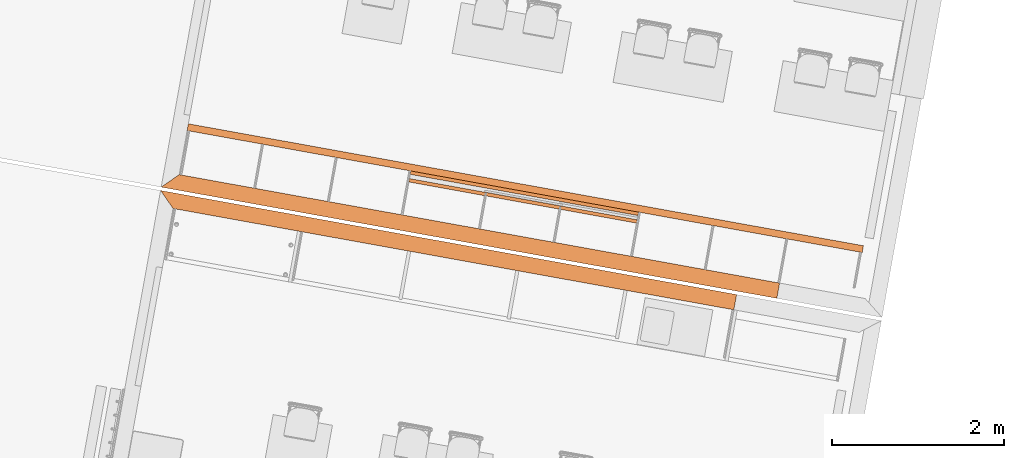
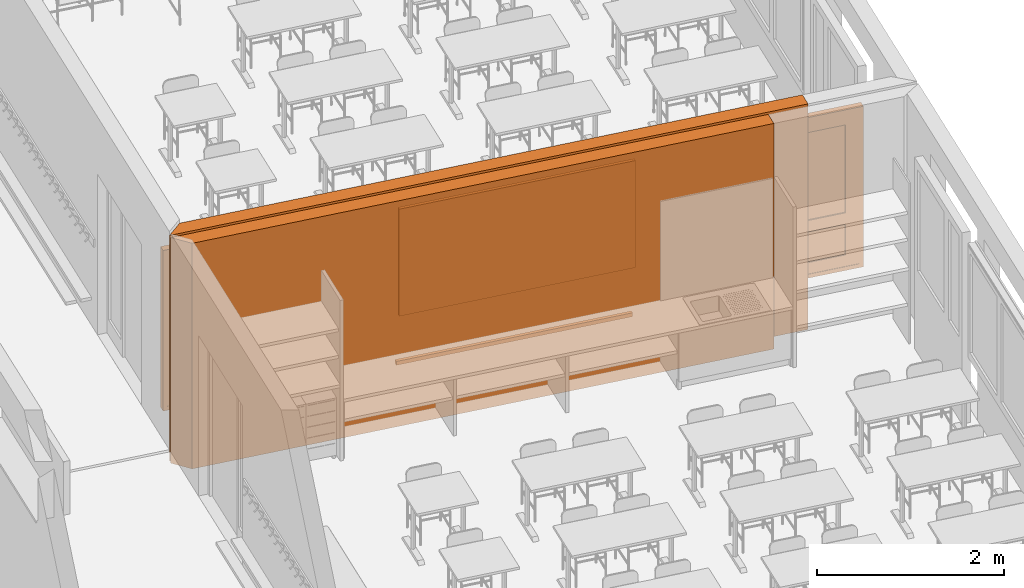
# One storey, part 41 of 79: 5 proxies.
"""IFC2X3 building model written with IfcOpenShell, lengths in metres."""

from ifc_helpers import new_model, entity, si_unit, converted_unit, derived_unit, money_unit, direction, frame, origin_with_axes, place, context, subcontext, project, spatial, polyline, outline, extrude, open_shell, faceted_brep, surface_model, source, transform, mapped, material, type_object, element, save


model = new_model("IFC2X3")

# Units and contexts
model_context = context("Model", 3, precision=1e-05, world=origin_with_axes(), true_north=direction((0.0, 1.0)))
body_context = subcontext(model_context, "Body", "Model", "MODEL_VIEW")
ifc_project = project(units=[si_unit("LENGTHUNIT", "METRE"), si_unit("AREAUNIT", "SQUARE_METRE"), si_unit("VOLUMEUNIT", "CUBIC_METRE"), converted_unit("PLANEANGLEUNIT", "DEGREE", entity("IfcPlaneAngleMeasure", 0.0174532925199), si_unit("PLANEANGLEUNIT", "RADIAN"), dimensions=[0, 0, 0, 0, 0, 0, 0]), money_unit("CHF"), converted_unit("TIMEUNIT", "Year", entity("IfcTimeMeasure", 31556926.0), si_unit("TIMEUNIT", "SECOND"), dimensions=[0, 0, 1, 0, 0, 0, 0]), si_unit("MASSUNIT", "GRAM", prefix="KILO"), si_unit("THERMODYNAMICTEMPERATUREUNIT", "DEGREE_CELSIUS"), si_unit("LUMINOUSINTENSITYUNIT", "LUMEN"), si_unit("ENERGYUNIT", "JOULE", prefix="MEGA"), derived_unit("THERMALCONDUCTANCEUNIT", [(si_unit("POWERUNIT", "WATT"), 1), (si_unit("LENGTHUNIT", "METRE"), -1), (si_unit("THERMODYNAMICTEMPERATUREUNIT", "KELVIN"), -1)]), derived_unit("SPECIFICHEATCAPACITYUNIT", [(si_unit("ENERGYUNIT", "JOULE"), 1), (si_unit("MASSUNIT", "GRAM", prefix="KILO"), -1), (si_unit("THERMODYNAMICTEMPERATUREUNIT", "KELVIN"), -1)]), derived_unit("MASSDENSITYUNIT", [(si_unit("MASSUNIT", "GRAM", prefix="KILO"), 1), (si_unit("VOLUMEUNIT", "CUBIC_METRE"), -1)])], contexts=[model_context])

# Site, building, storey
site_placement = place(None, frame((0.0, 0.0, 0.0), z_axis=(0.0, 0.0, 1.0), x_axis=(-0.177771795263, -0.984071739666, 0.0)))
site = spatial("IfcSite", under=ifc_project, at=site_placement, Name="Site", CompositionType="ELEMENT")
building_placement = place(site_placement, origin_with_axes())
building = spatial("IfcBuilding", under=site, at=building_placement, Name="Bâtiment", CompositionType="ELEMENT")
storey_placement = place(building_placement, origin_with_axes())
storey = spatial("IfcBuildingStorey", under=building, at=storey_placement, Name="RDC", CompositionType="ELEMENT", Elevation=0.0)

# Proxies
ifc_material_1 = material(Name="_BA banché RAL9007")
building_element_proxy_type_1 = type_object("IfcBuildingElementProxyType", Name="_BA banché RAL9007 180", PredefinedType="NOTDEFINED")
proxy_1_placement = place(storey_placement, frame((128.464841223, -156.627151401, -0.15), z_axis=(0.0, 0.0, 1.0), x_axis=(0.0, 1.0, 0.0)))
element("IfcBuildingElementProxy", 1, at=proxy_1_placement, inside=storey, type_object=building_element_proxy_type_1, material=ifc_material_1, Name="M refend", context=body_context, shape_type="SweptSolid", body=[
    extrude(outline(polyline([(0.0, 0.0), (7.26899999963, 0.0), (7.26899999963, 0.18), (0.179999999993, 0.18), (0.0, 0.0)])), origin_with_axes(), (0.0, 0.0, 1.0), 2.95),
])
proxy_2_placement = place(storey_placement, frame((128.504841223, -156.627151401, -0.15), z_axis=(0.0, 0.0, 1.0), x_axis=(0.0, 1.0, 0.0)))
element("IfcBuildingElementProxy", 2, at=proxy_2_placement, inside=storey, type_object=building_element_proxy_type_1, material=ifc_material_1, Name="M refend", context=body_context, shape_type="SweptSolid", body=[
    extrude(outline(polyline([(0.180000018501, -0.18), (6.80099999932, -0.18), (6.80099999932, 0.0), (0.0, 0.0), (0.180000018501, -0.18)])), origin_with_axes(), (0.0, 0.0, 1.0), 2.95),
])
ifc_material_2 = material(Name="Matériau de construction IFC")
building_element_proxy_type_2 = type_object("IfcBuildingElementProxyType", Name="porte-couliss-triple_JM2", PredefinedType="NOTDEFINED")
shared_shape = source(origin_with_axes(), body_context, "Body", "SurfaceModel", [
    surface_model("IfcShellBasedSurfaceModel", [(7.92, -0.0799999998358, 0.05), (7.92, -0.0799999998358, 2.05), (7.92, 1.64206426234e-10, 2.05), (7.92, 1.64206426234e-10, 0.05), (7.97, -0.0799999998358, 2.05), (7.97, -0.0799999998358, 0.05), (7.97, 1.64206426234e-10, 2.05), (7.97, 1.64206426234e-10, 0.05)], [open_shell([[[0, 1, 2, 3]], [[4, 1, 0, 5]], [[6, 7, 3, 2]]])]),
    surface_model("IfcShellBasedSurfaceModel", [(7.97, -0.0799999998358, 0.0), (7.97, -0.0799999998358, 2.1), (7.97, 1.64206426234e-10, 2.1), (7.97, 1.64206426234e-10, 0.0)], [open_shell([[[0, 1, 2, 3]]])]),
    surface_model("IfcShellBasedSurfaceModel", [(0.05, -0.0799999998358, 0.05), (7.92, -0.0799999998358, 0.05), (7.92, 1.64206426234e-10, 0.05), (0.05, 1.64206426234e-10, 0.05), (7.92, -0.0799999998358, 0.0), (0.05, -0.0799999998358, 0.0), (7.92, 1.64206426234e-10, 0.0), (0.05, 1.64206426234e-10, 0.0)], [open_shell([[[0, 1, 2, 3]], [[4, 1, 0, 5]], [[6, 7, 3, 2]]])]),
    surface_model("IfcShellBasedSurfaceModel", [(7.97, -0.0799999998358, 0.0), (0.0, -0.0799999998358, 0.0), (0.0, 1.64206426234e-10, 0.0), (7.97, 1.64206426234e-10, 0.0)], [open_shell([[[0, 1, 2, 3]]])]),
    surface_model("IfcShellBasedSurfaceModel", [(7.97, -0.0799999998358, 0.0), (7.97, -0.0799999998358, 0.05), (7.92, -0.0799999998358, 0.05), (7.92, -0.0799999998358, 0.0)], [open_shell([[[0, 1, 2, 3]]])]),
    surface_model("IfcShellBasedSurfaceModel", [(7.97, 1.64206426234e-10, 0.0), (7.97, 1.64206426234e-10, 0.05), (7.92, 1.64206426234e-10, 0.05), (7.92, 1.64206426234e-10, 0.0)], [open_shell([[[0, 1, 2, 3]]])]),
    surface_model("IfcShellBasedSurfaceModel", [(0.05, -0.0799999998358, 0.0), (0.05, -0.0799999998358, 0.05), (0.0, -0.0799999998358, 0.05), (0.0, -0.0799999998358, 0.0)], [open_shell([[[0, 1, 2, 3]]])]),
    surface_model("IfcShellBasedSurfaceModel", [(0.05, 1.64206426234e-10, 0.0), (0.05, 1.64206426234e-10, 0.05), (0.0, 1.64206426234e-10, 0.05), (0.0, 1.64206426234e-10, 0.0)], [open_shell([[[0, 1, 2, 3]]])]),
    surface_model("IfcShellBasedSurfaceModel", [(0.05, -0.0799999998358, 2.05), (0.05, -0.0799999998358, 0.05), (0.05, 1.64206426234e-10, 0.05), (0.05, 1.64206426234e-10, 2.05), (0.0, -0.0799999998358, 0.05), (0.0, -0.0799999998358, 2.05), (0.0, 1.64206426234e-10, 0.05), (0.0, 1.64206426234e-10, 2.05)], [open_shell([[[0, 1, 2, 3]], [[4, 1, 0, 5]], [[6, 7, 3, 2]]])]),
    surface_model("IfcShellBasedSurfaceModel", [(0.0, -0.0799999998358, 0.0), (0.0, -0.0799999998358, 2.1), (0.0, 1.64206426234e-10, 2.1), (0.0, 1.64206426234e-10, 0.0)], [open_shell([[[0, 1, 2, 3]]])]),
    surface_model("IfcShellBasedSurfaceModel", [(7.92, -0.0799999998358, 2.05), (0.05, -0.0799999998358, 2.05), (0.05, 1.64206426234e-10, 2.05), (7.92, 1.64206426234e-10, 2.05), (0.05, -0.0799999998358, 2.1), (7.92, -0.0799999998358, 2.1), (0.05, 1.64206426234e-10, 2.1), (7.92, 1.64206426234e-10, 2.1)], [open_shell([[[0, 1, 2, 3]], [[4, 1, 0, 5]], [[6, 7, 3, 2]]])]),
    surface_model("IfcShellBasedSurfaceModel", [(7.97, -0.0799999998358, 2.1), (0.0, -0.0799999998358, 2.1), (0.0, 1.64206426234e-10, 2.1), (7.97, 1.64206426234e-10, 2.1)], [open_shell([[[0, 1, 2, 3]]])]),
    surface_model("IfcShellBasedSurfaceModel", [(7.97, -0.0799999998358, 2.05), (7.97, -0.0799999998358, 2.1), (7.92, -0.0799999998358, 2.1), (7.92, -0.0799999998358, 2.05)], [open_shell([[[0, 1, 2, 3]]])]),
    surface_model("IfcShellBasedSurfaceModel", [(7.97, 1.64206426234e-10, 2.05), (7.97, 1.64206426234e-10, 2.1), (7.92, 1.64206426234e-10, 2.1), (7.92, 1.64206426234e-10, 2.05)], [open_shell([[[0, 1, 2, 3]]])]),
    surface_model("IfcShellBasedSurfaceModel", [(0.05, -0.0799999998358, 2.05), (0.05, -0.0799999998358, 2.1), (0.0, -0.0799999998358, 2.1), (0.0, -0.0799999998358, 2.05)], [open_shell([[[0, 1, 2, 3]]])]),
    surface_model("IfcShellBasedSurfaceModel", [(0.05, 1.64206426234e-10, 2.05), (0.05, 1.64206426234e-10, 2.1), (0.0, 1.64206426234e-10, 2.1), (0.0, 1.64206426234e-10, 2.05)], [open_shell([[[0, 1, 2, 3]]])]),
    surface_model("IfcShellBasedSurfaceModel", [(7.77, -0.0744999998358, 0.2), (7.77, -0.0744999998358, 1.9), (7.77, -0.00449999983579, 1.9), (7.77, -0.00449999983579, 0.2), (7.92, -0.0744999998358, 1.9), (7.92, -0.0744999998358, 0.2), (7.92, -0.00449999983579, 1.9), (7.92, -0.00449999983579, 0.2)], [open_shell([[[0, 1, 2, 3]], [[4, 1, 0, 5]], [[6, 7, 3, 2]]])]),
    surface_model("IfcShellBasedSurfaceModel", [(7.92, -0.0744999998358, 0.05), (7.92, -0.0744999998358, 2.05), (7.92, -0.00449999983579, 2.05), (7.92, -0.00449999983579, 0.05)], [open_shell([[[0, 1, 2, 3]]])]),
    surface_model("IfcShellBasedSurfaceModel", [(5.48, -0.0744999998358, 0.2), (7.77, -0.0744999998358, 0.2), (7.77, -0.00449999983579, 0.2), (5.48, -0.00449999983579, 0.2), (7.77, -0.0744999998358, 0.05), (5.48, -0.0744999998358, 0.05), (7.77, -0.00449999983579, 0.05), (5.48, -0.00449999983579, 0.05)], [open_shell([[[0, 1, 2, 3]], [[4, 1, 0, 5]], [[6, 7, 3, 2]]])]),
    surface_model("IfcShellBasedSurfaceModel", [(7.92, -0.0744999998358, 0.05), (5.33, -0.0744999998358, 0.05), (5.33, -0.00449999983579, 0.05), (7.92, -0.00449999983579, 0.05)], [open_shell([[[0, 1, 2, 3]]])]),
    surface_model("IfcShellBasedSurfaceModel", [(7.92, -0.0744999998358, 0.05), (7.92, -0.0744999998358, 0.2), (7.77, -0.0744999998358, 0.2), (7.77, -0.0744999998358, 0.05)], [open_shell([[[0, 1, 2, 3]]])]),
    surface_model("IfcShellBasedSurfaceModel", [(7.92, -0.00449999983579, 0.05), (7.92, -0.00449999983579, 0.2), (7.77, -0.00449999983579, 0.2), (7.77, -0.00449999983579, 0.05)], [open_shell([[[0, 1, 2, 3]]])]),
    surface_model("IfcShellBasedSurfaceModel", [(5.48, -0.0744999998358, 0.05), (5.48, -0.0744999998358, 0.2), (5.33, -0.0744999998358, 0.2), (5.33, -0.0744999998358, 0.05)], [open_shell([[[0, 1, 2, 3]]])]),
    surface_model("IfcShellBasedSurfaceModel", [(5.48, -0.00449999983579, 0.05), (5.48, -0.00449999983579, 0.2), (5.33, -0.00449999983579, 0.2), (5.33, -0.00449999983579, 0.05)], [open_shell([[[0, 1, 2, 3]]])]),
    surface_model("IfcShellBasedSurfaceModel", [(5.48, -0.0744999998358, 1.9), (5.48, -0.0744999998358, 0.2), (5.48, -0.00449999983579, 0.2), (5.48, -0.00449999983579, 1.9), (5.33, -0.0744999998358, 0.2), (5.33, -0.0744999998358, 1.9), (5.33, -0.00449999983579, 0.2), (5.33, -0.00449999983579, 1.9)], [open_shell([[[0, 1, 2, 3]], [[4, 1, 0, 5]], [[6, 7, 3, 2]]])]),
    surface_model("IfcShellBasedSurfaceModel", [(5.33, -0.0744999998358, 0.05), (5.33, -0.0744999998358, 2.05), (5.33, -0.00449999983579, 2.05), (5.33, -0.00449999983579, 0.05)], [open_shell([[[0, 1, 2, 3]]])]),
    surface_model("IfcShellBasedSurfaceModel", [(7.77, -0.0744999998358, 1.9), (5.48, -0.0744999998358, 1.9), (5.48, -0.00449999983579, 1.9), (7.77, -0.00449999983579, 1.9), (5.48, -0.0744999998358, 2.05), (7.77, -0.0744999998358, 2.05), (5.48, -0.00449999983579, 2.05), (7.77, -0.00449999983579, 2.05)], [open_shell([[[0, 1, 2, 3]], [[4, 1, 0, 5]], [[6, 7, 3, 2]]])]),
    surface_model("IfcShellBasedSurfaceModel", [(7.92, -0.0744999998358, 2.05), (5.33, -0.0744999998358, 2.05), (5.33, -0.00449999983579, 2.05), (7.92, -0.00449999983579, 2.05)], [open_shell([[[0, 1, 2, 3]]])]),
    surface_model("IfcShellBasedSurfaceModel", [(7.92, -0.0744999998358, 1.9), (7.92, -0.0744999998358, 2.05), (7.77, -0.0744999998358, 2.05), (7.77, -0.0744999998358, 1.9)], [open_shell([[[0, 1, 2, 3]]])]),
    surface_model("IfcShellBasedSurfaceModel", [(7.92, -0.00449999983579, 1.9), (7.92, -0.00449999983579, 2.05), (7.77, -0.00449999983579, 2.05), (7.77, -0.00449999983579, 1.9)], [open_shell([[[0, 1, 2, 3]]])]),
    surface_model("IfcShellBasedSurfaceModel", [(5.48, -0.0744999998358, 1.9), (5.48, -0.0744999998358, 2.05), (5.33, -0.0744999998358, 2.05), (5.33, -0.0744999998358, 1.9)], [open_shell([[[0, 1, 2, 3]]])]),
    surface_model("IfcShellBasedSurfaceModel", [(5.48, -0.00449999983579, 1.9), (5.48, -0.00449999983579, 2.05), (5.33, -0.00449999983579, 2.05), (5.33, -0.00449999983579, 1.9)], [open_shell([[[0, 1, 2, 3]]])]),
    faceted_brep([(5.48, -0.0194999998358, 0.2), (7.77, -0.0194999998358, 0.2), (7.77, -0.0594999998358, 0.2), (5.48, -0.0594999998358, 0.2), (5.48, -0.0194999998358, 0.6), (7.77, -0.0194999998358, 0.6), (7.77, -0.0594999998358, 0.6), (5.48, -0.0594999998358, 0.6)], [[[0, 1, 2, 3]], [[1, 0, 4, 5]], [[2, 1, 5, 6]], [[3, 2, 6, 7]], [[0, 3, 7, 4]], [[5, 4, 7, 6]]]),
    faceted_brep([(5.48, -0.00449999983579, 0.6), (7.77, -0.00449999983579, 0.6), (7.77, -0.0744999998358, 0.6), (5.48, -0.0744999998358, 0.6), (5.48, -0.00449999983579, 0.75), (7.77, -0.00449999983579, 0.75), (7.77, -0.0744999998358, 0.75), (5.48, -0.0744999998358, 0.75)], [[[0, 1, 2, 3]], [[1, 0, 4, 5]], [[2, 1, 5, 6]], [[3, 2, 6, 7]], [[0, 3, 7, 4]], [[5, 4, 7, 6]]]),
    faceted_brep([(5.48, -0.0194999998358, 0.75), (7.77, -0.0194999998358, 0.75), (7.77, -0.0594999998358, 0.75), (5.48, -0.0594999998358, 0.75), (5.48, -0.0194999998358, 1.9), (7.77, -0.0194999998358, 1.9), (7.77, -0.0594999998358, 1.9), (5.48, -0.0594999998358, 1.9)], [[[0, 1, 2, 3]], [[1, 0, 4, 5]], [[2, 1, 5, 6]], [[3, 2, 6, 7]], [[0, 3, 7, 4]], [[5, 4, 7, 6]]]),
    surface_model("IfcShellBasedSurfaceModel", [(2.49, -0.0744999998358, 0.2), (2.49, -0.0744999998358, 1.9), (2.49, -0.00449999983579, 1.9), (2.49, -0.00449999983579, 0.2), (2.64, -0.0744999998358, 1.9), (2.64, -0.0744999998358, 0.2), (2.64, -0.00449999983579, 1.9), (2.64, -0.00449999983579, 0.2)], [open_shell([[[0, 1, 2, 3]], [[4, 1, 0, 5]], [[6, 7, 3, 2]]])]),
    surface_model("IfcShellBasedSurfaceModel", [(2.64, -0.0744999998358, 0.05), (2.64, -0.0744999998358, 2.05), (2.64, -0.00449999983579, 2.05), (2.64, -0.00449999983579, 0.05)], [open_shell([[[0, 1, 2, 3]]])]),
    surface_model("IfcShellBasedSurfaceModel", [(0.2, -0.0744999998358, 0.2), (2.49, -0.0744999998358, 0.2), (2.49, -0.00449999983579, 0.2), (0.2, -0.00449999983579, 0.2), (2.49, -0.0744999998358, 0.05), (0.2, -0.0744999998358, 0.05), (2.49, -0.00449999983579, 0.05), (0.2, -0.00449999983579, 0.05)], [open_shell([[[0, 1, 2, 3]], [[4, 1, 0, 5]], [[6, 7, 3, 2]]])]),
    surface_model("IfcShellBasedSurfaceModel", [(2.64, -0.0744999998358, 0.05), (0.05, -0.0744999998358, 0.05), (0.05, -0.00449999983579, 0.05), (2.64, -0.00449999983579, 0.05)], [open_shell([[[0, 1, 2, 3]]])]),
    surface_model("IfcShellBasedSurfaceModel", [(2.64, -0.0744999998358, 0.05), (2.64, -0.0744999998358, 0.2), (2.49, -0.0744999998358, 0.2), (2.49, -0.0744999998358, 0.05)], [open_shell([[[0, 1, 2, 3]]])]),
    surface_model("IfcShellBasedSurfaceModel", [(2.64, -0.00449999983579, 0.05), (2.64, -0.00449999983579, 0.2), (2.49, -0.00449999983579, 0.2), (2.49, -0.00449999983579, 0.05)], [open_shell([[[0, 1, 2, 3]]])]),
    surface_model("IfcShellBasedSurfaceModel", [(0.2, -0.0744999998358, 0.05), (0.2, -0.0744999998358, 0.2), (0.05, -0.0744999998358, 0.2), (0.05, -0.0744999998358, 0.05)], [open_shell([[[0, 1, 2, 3]]])]),
    surface_model("IfcShellBasedSurfaceModel", [(0.2, -0.00449999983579, 0.05), (0.2, -0.00449999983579, 0.2), (0.05, -0.00449999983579, 0.2), (0.05, -0.00449999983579, 0.05)], [open_shell([[[0, 1, 2, 3]]])]),
    surface_model("IfcShellBasedSurfaceModel", [(0.2, -0.0744999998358, 1.9), (0.2, -0.0744999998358, 0.2), (0.2, -0.00449999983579, 0.2), (0.2, -0.00449999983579, 1.9), (0.05, -0.0744999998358, 0.2), (0.05, -0.0744999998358, 1.9), (0.05, -0.00449999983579, 0.2), (0.05, -0.00449999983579, 1.9)], [open_shell([[[0, 1, 2, 3]], [[4, 1, 0, 5]], [[6, 7, 3, 2]]])]),
    surface_model("IfcShellBasedSurfaceModel", [(0.05, -0.0744999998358, 0.05), (0.05, -0.0744999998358, 2.05), (0.05, -0.00449999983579, 2.05), (0.05, -0.00449999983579, 0.05)], [open_shell([[[0, 1, 2, 3]]])]),
    surface_model("IfcShellBasedSurfaceModel", [(2.49, -0.0744999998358, 1.9), (0.2, -0.0744999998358, 1.9), (0.2, -0.00449999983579, 1.9), (2.49, -0.00449999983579, 1.9), (0.2, -0.0744999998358, 2.05), (2.49, -0.0744999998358, 2.05), (0.2, -0.00449999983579, 2.05), (2.49, -0.00449999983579, 2.05)], [open_shell([[[0, 1, 2, 3]], [[4, 1, 0, 5]], [[6, 7, 3, 2]]])]),
    surface_model("IfcShellBasedSurfaceModel", [(2.64, -0.0744999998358, 2.05), (0.05, -0.0744999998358, 2.05), (0.05, -0.00449999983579, 2.05), (2.64, -0.00449999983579, 2.05)], [open_shell([[[0, 1, 2, 3]]])]),
    surface_model("IfcShellBasedSurfaceModel", [(2.64, -0.0744999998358, 1.9), (2.64, -0.0744999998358, 2.05), (2.49, -0.0744999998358, 2.05), (2.49, -0.0744999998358, 1.9)], [open_shell([[[0, 1, 2, 3]]])]),
    surface_model("IfcShellBasedSurfaceModel", [(2.64, -0.00449999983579, 1.9), (2.64, -0.00449999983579, 2.05), (2.49, -0.00449999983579, 2.05), (2.49, -0.00449999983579, 1.9)], [open_shell([[[0, 1, 2, 3]]])]),
    surface_model("IfcShellBasedSurfaceModel", [(0.2, -0.0744999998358, 1.9), (0.2, -0.0744999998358, 2.05), (0.05, -0.0744999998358, 2.05), (0.05, -0.0744999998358, 1.9)], [open_shell([[[0, 1, 2, 3]]])]),
    surface_model("IfcShellBasedSurfaceModel", [(0.2, -0.00449999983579, 1.9), (0.2, -0.00449999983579, 2.05), (0.05, -0.00449999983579, 2.05), (0.05, -0.00449999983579, 1.9)], [open_shell([[[0, 1, 2, 3]]])]),
    faceted_brep([(0.2, -0.0194999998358, 0.2), (2.49, -0.0194999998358, 0.2), (2.49, -0.0594999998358, 0.2), (0.2, -0.0594999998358, 0.2), (0.2, -0.0194999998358, 0.6), (2.49, -0.0194999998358, 0.6), (2.49, -0.0594999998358, 0.6), (0.2, -0.0594999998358, 0.6)], [[[0, 1, 2, 3]], [[1, 0, 4, 5]], [[2, 1, 5, 6]], [[3, 2, 6, 7]], [[0, 3, 7, 4]], [[5, 4, 7, 6]]]),
    faceted_brep([(0.2, -0.00449999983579, 0.6), (2.49, -0.00449999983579, 0.6), (2.49, -0.0744999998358, 0.6), (0.2, -0.0744999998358, 0.6), (0.2, -0.00449999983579, 0.75), (2.49, -0.00449999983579, 0.75), (2.49, -0.0744999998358, 0.75), (0.2, -0.0744999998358, 0.75)], [[[0, 1, 2, 3]], [[1, 0, 4, 5]], [[2, 1, 5, 6]], [[3, 2, 6, 7]], [[0, 3, 7, 4]], [[5, 4, 7, 6]]]),
    faceted_brep([(0.2, -0.0194999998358, 0.75), (2.49, -0.0194999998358, 0.75), (2.49, -0.0594999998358, 0.75), (0.2, -0.0594999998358, 0.75), (0.2, -0.0194999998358, 1.9), (2.49, -0.0194999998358, 1.9), (2.49, -0.0594999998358, 1.9), (0.2, -0.0594999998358, 1.9)], [[[0, 1, 2, 3]], [[1, 0, 4, 5]], [[2, 1, 5, 6]], [[3, 2, 6, 7]], [[0, 3, 7, 4]], [[5, 4, 7, 6]]]),
])
proxy_3_placement = place(storey_placement, frame((127.68484124, -156.447151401, 0.0), z_axis=(0.0, 0.0, 1.0), x_axis=(0.0, 1.0, 0.0)))
element("IfcBuildingElementProxy", 3, at=proxy_3_placement, inside=storey, type_object=building_element_proxy_type_2, material=ifc_material_2, Name="coulissant-classe", context=body_context, shape_type="MappedRepresentation", body=[
    mapped(shared_shape, transform((0.0, 0.0, 0.0))),
])
ifc_material_3 = material(Name="_panneau mélaminé")
building_element_proxy_type_3 = type_object("IfcBuildingElementProxyType", Name="_panneau mélaminé 40", PredefinedType="NOTDEFINED")
proxy_4_placement = place(storey_placement, frame((127.854841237, -151.107651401, 0.7), z_axis=(0.0, 0.0, 1.0), x_axis=(0.0, -1.0, 0.0)))
element("IfcBuildingElementProxy", 4, at=proxy_4_placement, inside=storey, type_object=building_element_proxy_type_3, material=ifc_material_3, Name="tableau-classe", context=body_context, shape_type="SweptSolid", body=[
    extrude(outline(polyline([(0.0095, 0.0), (2.6995, 0.0), (2.6995, 0.04), (0.0095, 0.04), (0.0095, 0.0)])), origin_with_axes(), (0.0, 0.0, 1.0), 1.4),
])
ifc_material_4 = material(Name="_Bois contreplaqué")
building_element_proxy_type_4 = type_object("IfcBuildingElementProxyType", Name="_Bois contreplaqué 50", PredefinedType="NOTDEFINED")
proxy_5_placement = place(storey_placement, frame((127.76484124, -153.807151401, 0.05), z_axis=(0.0, 0.0, 1.0), x_axis=(1.0, 0.0, 0.0)))
element("IfcBuildingElementProxy", 5, at=proxy_5_placement, inside=storey, type_object=building_element_proxy_type_4, material=ifc_material_4, Name="socle-tableau-classe", context=body_context, shape_type="SweptSolid", body=[
    extrude(outline(polyline([(0.0, 0.0), (0.0399999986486, 0.0), (0.0399999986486, 2.69), (0.0, 2.69), (0.0, 0.0)])), frame((0.0, 0.0, -0.05), z_axis=(0.0, 0.0, 1.0), x_axis=(1.0, 0.0, 0.0)), (0.0, 0.0, 1.0), 0.05),
])

save(model, "model.ifc")
